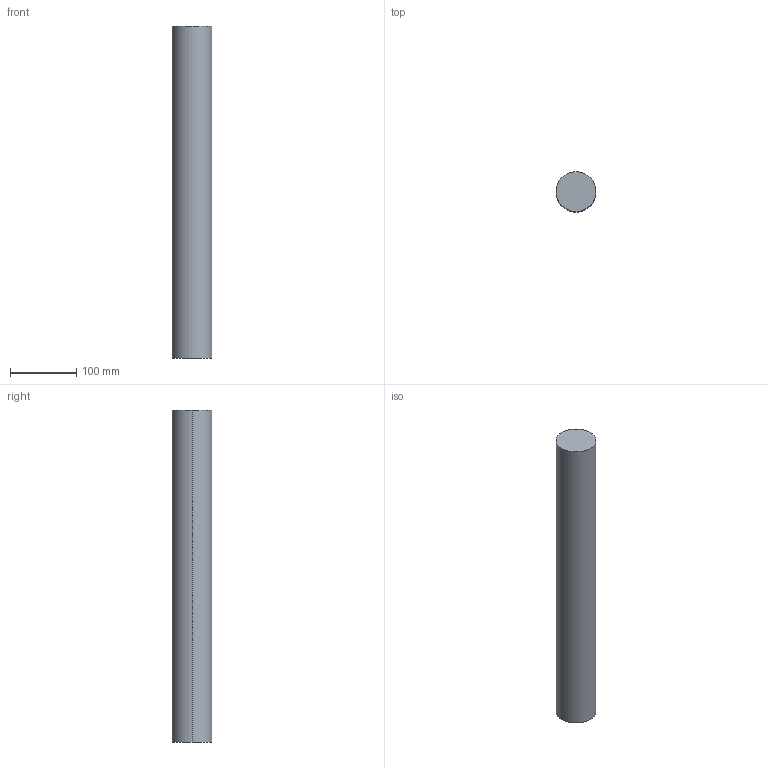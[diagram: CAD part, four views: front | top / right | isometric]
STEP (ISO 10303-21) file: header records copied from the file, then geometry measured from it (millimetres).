
FILE_DESCRIPTION (( 'STEP AP203' ), '1' );
FILE_NAME ('Mounting column Ø60x500 041J004335.STEP', '2009-10-15T06:15:00', ( 'HP' ), ( '' ), 'SwSTEP 2.0', 'SolidWorks 2008', '' );
FILE_SCHEMA (( 'CONFIG_CONTROL_DESIGN' ));
Length unit declared in the file: millimetre
Products named in the file (1): Mounting column Ø60x500 041J004335
Bounding box: 60 x 60 x 500 mm (x, y, z)
Volume: 1413716.7 mm3; surface area: 99902.6 mm2
Topology: 1 solids, 1 shells, 4 faces, 6 edges, 4 vertices
Faces by surface type: cylinder 2, plane 2
Entity records: 171 total; most frequent: DIRECTION 20, CARTESIAN_POINT 15, ORIENTED_EDGE 12, AXIS2_PLACEMENT_3D 9, PERSON_AND_ORGANIZATION 8, EDGE_CURVE 6, COORDINATED_UNIVERSAL_TIME_OFFSET 5, DATE_AND_TIME 5
